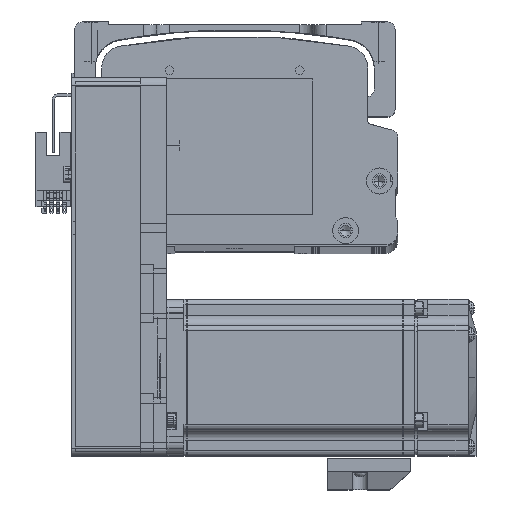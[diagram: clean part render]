
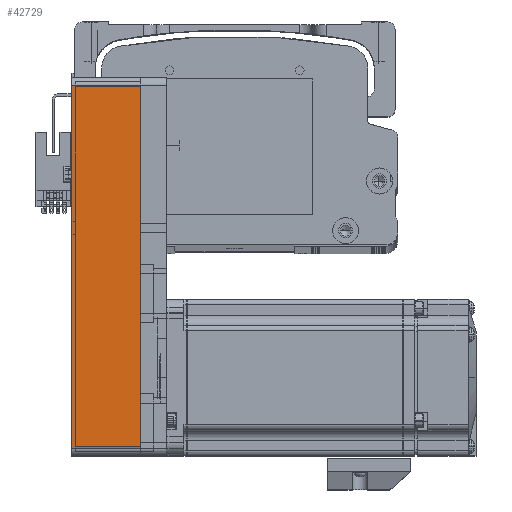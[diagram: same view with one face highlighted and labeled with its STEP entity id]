
A CAD part, top view. The second image highlights one B-rep face of the part: STEP entity #42729.
In plain terms, the highlighted planar face has unit normal (0, 0, 1) as drawn and (0, 1, 0) by its records, which use the part's own axes.
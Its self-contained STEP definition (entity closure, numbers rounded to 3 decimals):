
#2245 = LINE ( 'NONE', #32226, #65174 ) ;
#3631 = VECTOR ( 'NONE', #37441, 1000. ) ;
#4849 = PLANE ( 'NONE',  #49660 ) ;
#5832 = VECTOR ( 'NONE', #85529, 1000. ) ;
#6332 = CARTESIAN_POINT ( 'NONE',  ( 72.5, 30., 0. ) ) ;
#9994 = ORIENTED_EDGE ( 'NONE', *, *, #69373, .F. ) ;
#17766 = ORIENTED_EDGE ( 'NONE', *, *, #55682, .T. ) ;
#17806 = FACE_OUTER_BOUND ( 'NONE', #27531, .T. ) ;
#19671 = LINE ( 'NONE', #78289, #3631 ) ;
#20580 = LINE ( 'NONE', #6332, #56821 ) ;
#25253 = ORIENTED_EDGE ( 'NONE', *, *, #28063, .T. ) ;
#27531 = EDGE_LOOP ( 'NONE', ( #17766, #25253, #9994, #37656 ) ) ;
#28063 = EDGE_CURVE ( 'NONE', #37247, #80879, #2245, .T. ) ;
#31451 = EDGE_CURVE ( 'NONE', #59244, #70763, #19671, .T. ) ;
#32226 = CARTESIAN_POINT ( 'NONE',  ( -69.5, 30., 26.5 ) ) ;
#32321 = CARTESIAN_POINT ( 'NONE',  ( 72.5, 30., 26.5 ) ) ;
#37247 = VERTEX_POINT ( 'NONE', #48128 ) ;
#37441 = DIRECTION ( 'NONE',  ( 0., 0., -1. ) ) ;
#37656 = ORIENTED_EDGE ( 'NONE', *, *, #31451, .T. ) ;
#39171 = DIRECTION ( 'NONE',  ( 1., 0., 0. ) ) ;
#40813 = CARTESIAN_POINT ( 'NONE',  ( -69.5, 30., 26.5 ) ) ;
#42729 = ADVANCED_FACE ( 'NONE', ( #17806 ), #4849, .F. ) ;
#43620 = CARTESIAN_POINT ( 'NONE',  ( 69.5, 30., 26.5 ) ) ;
#44705 = CARTESIAN_POINT ( 'NONE',  ( 72.5, 30., 26.5 ) ) ;
#46811 = DIRECTION ( 'NONE',  ( 0., 0., 1. ) ) ;
#47231 = DIRECTION ( 'NONE',  ( -1., 0., 0. ) ) ;
#48128 = CARTESIAN_POINT ( 'NONE',  ( -69.5, 30., 0. ) ) ;
#49660 = AXIS2_PLACEMENT_3D ( 'NONE', #32321, #79986, #39171 ) ;
#55682 = EDGE_CURVE ( 'NONE', #70763, #37247, #20580, .T. ) ;
#56821 = VECTOR ( 'NONE', #47231, 1000. ) ;
#59244 = VERTEX_POINT ( 'NONE', #43620 ) ;
#65174 = VECTOR ( 'NONE', #46811, 1000. ) ;
#69373 = EDGE_CURVE ( 'NONE', #59244, #80879, #76272, .T. ) ;
#70763 = VERTEX_POINT ( 'NONE', #83201 ) ;
#76272 = LINE ( 'NONE', #44705, #5832 ) ;
#78289 = CARTESIAN_POINT ( 'NONE',  ( 69.5, 30., 26.5 ) ) ;
#79986 = DIRECTION ( 'NONE',  ( 0., -1., 0. ) ) ;
#80879 = VERTEX_POINT ( 'NONE', #40813 ) ;
#83201 = CARTESIAN_POINT ( 'NONE',  ( 69.5, 30., 0. ) ) ;
#85529 = DIRECTION ( 'NONE',  ( -1., 0., 0. ) ) ;
